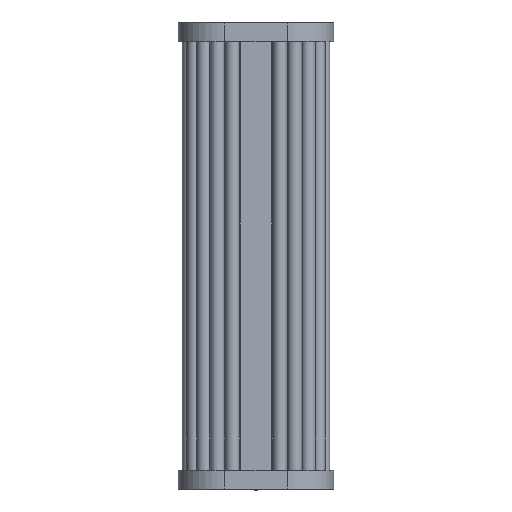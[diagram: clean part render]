
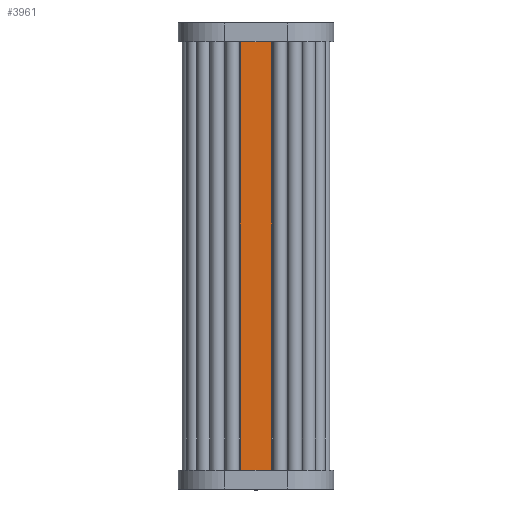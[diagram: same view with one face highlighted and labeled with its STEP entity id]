
A CAD part, front view. The second image highlights one B-rep face of the part: STEP entity #3961.
In plain terms, the highlighted planar face has unit normal (0, -1, 0).
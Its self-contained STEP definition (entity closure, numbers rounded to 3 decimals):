
#1076 = CARTESIAN_POINT ( 'NONE',  ( 31330.339, -3406.584, 292.374 ) ) ;
#1212 = B_SPLINE_CURVE_WITH_KNOTS ( 'NONE', 1,
 ( #31043, #25305 ),
 .UNSPECIFIED., .F., .F.,
 ( 2, 2 ),
 ( 0., 100.074 ),
 .UNSPECIFIED. ) ;
#2394 = VERTEX_POINT ( 'NONE', #32780 ) ;
#2930 = VERTEX_POINT ( 'NONE', #1076 ) ;
#3961 = ADVANCED_FACE ( 'NONE', ( #31568 ), #18611, .T. ) ;
#4005 = EDGE_CURVE ( 'NONE', #27888, #13920, #4776, .T. ) ;
#4776 = B_SPLINE_CURVE_WITH_KNOTS ( 'NONE', 2,
 ( #9051, #16266, #28703 ),
 .UNSPECIFIED., .F., .F.,
 ( 3, 3 ),
 ( 10.384, 11.384 ),
 .UNSPECIFIED. ) ;
#4787 = AXIS2_PLACEMENT_3D ( 'NONE', #19123, #11416, #6214 ) ;
#6214 = DIRECTION ( 'NONE',  ( 0., 0., -1. ) ) ;
#7117 = CARTESIAN_POINT ( 'NONE',  ( 31340.339, -3406.584, 292.374 ) ) ;
#7761 = CARTESIAN_POINT ( 'NONE',  ( 31330.339, -3406.584, 292.374 ) ) ;
#8520 = EDGE_CURVE ( 'NONE', #2930, #2394, #29306, .T. ) ;
#9051 = CARTESIAN_POINT ( 'NONE',  ( 31330.339, -3406.584, 0. ) ) ;
#9110 = CARTESIAN_POINT ( 'NONE',  ( 31350.339, -3406.584, 0. ) ) ;
#11416 = DIRECTION ( 'NONE',  ( 0., -1., 0. ) ) ;
#11710 = ORIENTED_EDGE ( 'NONE', *, *, #4005, .T. ) ;
#11844 = EDGE_LOOP ( 'NONE', ( #11710, #23920, #21464, #20217 ) ) ;
#12949 = CARTESIAN_POINT ( 'NONE',  ( 31350.339, -3406.584, 292.374 ) ) ;
#13920 = VERTEX_POINT ( 'NONE', #26412 ) ;
#16266 = CARTESIAN_POINT ( 'NONE',  ( 31340.339, -3406.584, 0. ) ) ;
#18611 = PLANE ( 'NONE',  #4787 ) ;
#18667 = EDGE_CURVE ( 'NONE', #13920, #2394, #26089, .T. ) ;
#19123 = CARTESIAN_POINT ( 'NONE',  ( 31330.339, -3406.584, 0. ) ) ;
#19139 = EDGE_CURVE ( 'NONE', #27888, #2930, #1212, .T. ) ;
#19344 = CARTESIAN_POINT ( 'NONE',  ( 31350.339, -3406.584, 292.374 ) ) ;
#20217 = ORIENTED_EDGE ( 'NONE', *, *, #19139, .F. ) ;
#21464 = ORIENTED_EDGE ( 'NONE', *, *, #8520, .F. ) ;
#23000 = CARTESIAN_POINT ( 'NONE',  ( 31330.339, -3406.584, 0. ) ) ;
#23920 = ORIENTED_EDGE ( 'NONE', *, *, #18667, .T. ) ;
#25305 = CARTESIAN_POINT ( 'NONE',  ( 31330.339, -3406.584, 292.374 ) ) ;
#26089 = B_SPLINE_CURVE_WITH_KNOTS ( 'NONE', 1,
 ( #9110, #19344 ),
 .UNSPECIFIED., .F., .F.,
 ( 2, 2 ),
 ( 0., 100.074 ),
 .UNSPECIFIED. ) ;
#26412 = CARTESIAN_POINT ( 'NONE',  ( 31350.339, -3406.584, 0. ) ) ;
#27888 = VERTEX_POINT ( 'NONE', #23000 ) ;
#28703 = CARTESIAN_POINT ( 'NONE',  ( 31350.339, -3406.584, 0. ) ) ;
#29306 = B_SPLINE_CURVE_WITH_KNOTS ( 'NONE', 2,
 ( #7761, #7117, #12949 ),
 .UNSPECIFIED., .F., .F.,
 ( 3, 3 ),
 ( 10.384, 11.384 ),
 .UNSPECIFIED. ) ;
#31043 = CARTESIAN_POINT ( 'NONE',  ( 31330.339, -3406.584, 0. ) ) ;
#31568 = FACE_OUTER_BOUND ( 'NONE', #11844, .T. ) ;
#32780 = CARTESIAN_POINT ( 'NONE',  ( 31350.339, -3406.584, 292.374 ) ) ;
